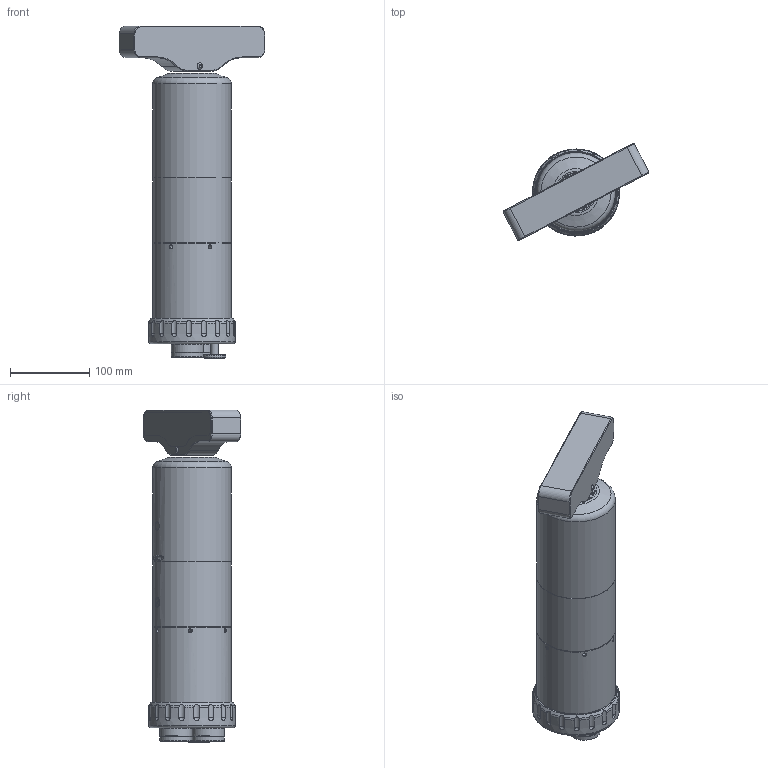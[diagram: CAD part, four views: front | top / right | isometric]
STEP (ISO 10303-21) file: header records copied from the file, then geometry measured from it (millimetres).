
FILE_DESCRIPTION (( 'STEP AP214' ), '1' );
FILE_NAME ('Hammerhead DST Sonar 675-935 V6.STEP', '2015-05-21T12:50:05', ( 'Admin' ), ( 'Microsoft' ), 'SwSTEP 2.0', 'SolidWorks 2013', '' );
FILE_SCHEMA (( 'AUTOMOTIVE_DESIGN' ));
Length unit declared in the file: millimetre
Products named in the file (1): Hammerhead DST Sonar 675-935 V6
Bounding box: 183.41 x 122.35 x 418.25 mm (x, y, z)
Surface area: 184391.6 mm2 (no closed solid volume)
Topology: 0 solids, 50 shells, 359 faces, 1416 edges, 1044 vertices
Faces by surface type: plane 112, cylinder 107, cone 63, torus 36, sphere 34, bspline 7
Full cylindrical faces by diameter (mm): 1.5 x12, 3.43 x16, 4 x6, 5.5 x1, 7 x7, 9.62 x1, 10 x3, 11.69 x2, 12 x1, 21.94 x2, 28 x1, 40.7 x4, 47.9 x1, 89.85 x2, 91 x1, 91.55 x1, 98.95 x3, 100.54 x1, 109.64 x1
Entity records: 20524 total; most frequent: CARTESIAN_POINT 6258, DIRECTION 2060, ORIENTED_EDGE 1687, EDGE_CURVE 1161, VERTEX_POINT 957, AXIS2_PLACEMENT_3D 727, VECTOR 606, LINE 606
